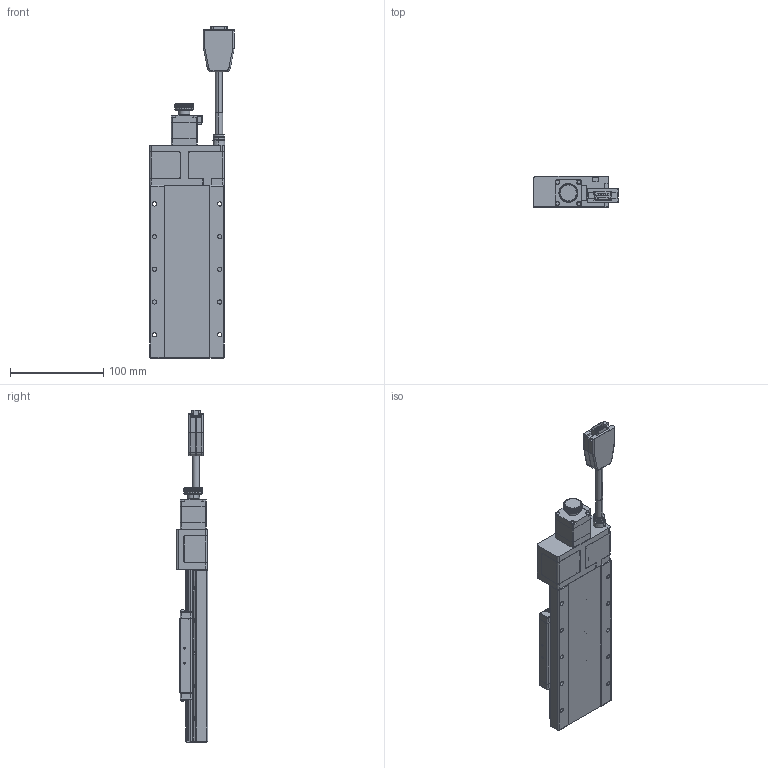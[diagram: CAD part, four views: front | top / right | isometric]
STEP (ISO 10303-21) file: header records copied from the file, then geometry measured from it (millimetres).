
FILE_DESCRIPTION (( 'STEP AP203' ), '1' );
FILE_NAME ('CXN8075-S2?N.STEP', '2023-09-28T05:35:50', ( '' ), ( '' ), 'SwSTEP 2.0', 'SolidWorks 2019', '' );
FILE_SCHEMA (( 'CONFIG_CONTROL_DESIGN' ));
Length unit declared in the file: millimetre
Products named in the file (4): CXN80_GMT; CXN8075-S2?N; Group1^CXN8075-S2?N(2023新版)_defeature_GMT; Group2^CXN8075-S2?N(2023新版)_defeature_GMT
Assembly tree (3 placements, depth 2):
  CXN8075-S2?N
    Group1^CXN8075-S2?N(2023新版)_defeature_GMT
    Group2^CXN8075-S2?N(2023新版)_defeature_GMT
    CXN80_GMT
Bounding box: 90.5 x 33.5 x 355.6 mm (x, y, z)
Volume: 60012.7 mm3; surface area: 136261.5 mm2
Topology: 23 solids, 27 shells, 4227 faces, 10929 edges, 6758 vertices
Faces by surface type: plane 1581, cylinder 1294, cone 540, torus 420, bspline 258, sphere 134
Entity records: 141303 total; most frequent: CARTESIAN_POINT 39028, DIRECTION 21558, ORIENTED_EDGE 21546, EDGE_CURVE 10773, AXIS2_PLACEMENT_3D 8238, VERTEX_POINT 6750, LINE 5082, VECTOR 5082
